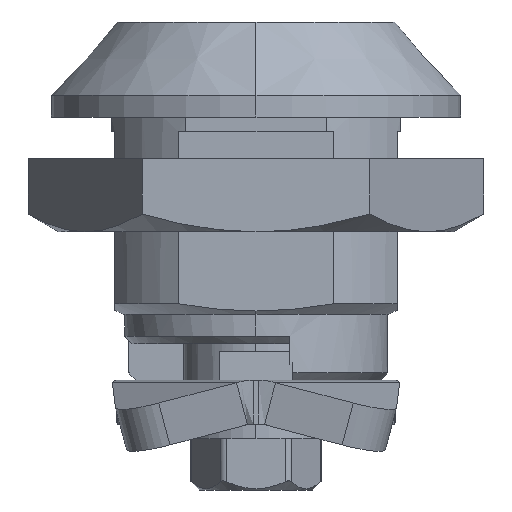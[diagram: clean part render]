
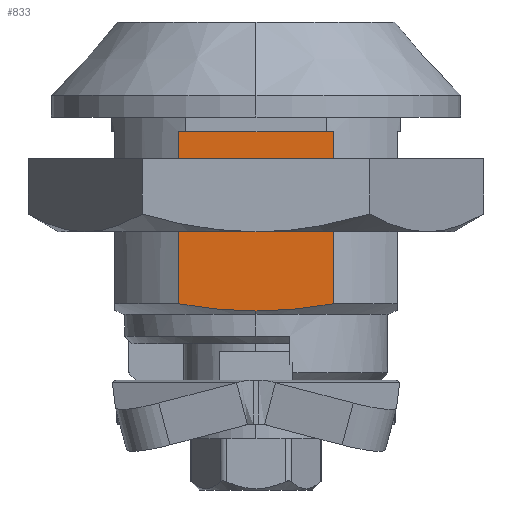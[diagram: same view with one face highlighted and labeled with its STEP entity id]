
A CAD part, left-side view. The second image highlights one B-rep face of the part: STEP entity #833.
In plain terms, the highlighted planar face has unit normal (-1, 0, 0).
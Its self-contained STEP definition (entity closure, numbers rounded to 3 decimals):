
#344 = EDGE_CURVE ( 'NONE', #525, #349, #3153, .T. ) ;
#349 = VERTEX_POINT ( 'NONE', #3144 ) ;
#405 = VERTEX_POINT ( 'NONE', #3381 ) ;
#491 = VERTEX_POINT ( 'NONE', #3625 ) ;
#525 = VERTEX_POINT ( 'NONE', #3733 ) ;
#610 = EDGE_CURVE ( 'NONE', #491, #405, #4011, .T. ) ;
#770 = ORIENTED_EDGE ( 'NONE', *, *, #787, .T. ) ;
#771 = ORIENTED_EDGE ( 'NONE', *, *, #610, .T. ) ;
#772 = ORIENTED_EDGE ( 'NONE', *, *, #773, .F. ) ;
#773 = EDGE_CURVE ( 'NONE', #349, #405, #4571, .T. ) ;
#775 = ORIENTED_EDGE ( 'NONE', *, *, #344, .F. ) ;
#787 = EDGE_CURVE ( 'NONE', #788, #491, #4620, .T. ) ;
#788 = VERTEX_POINT ( 'NONE', #4616 ) ;
#833 = ADVANCED_FACE ( 'NONE', ( #4768 ), #4753, .T. ) ;
#835 = EDGE_LOOP ( 'NONE', ( #837, #770, #771, #772, #775 ) ) ;
#837 = ORIENTED_EDGE ( 'NONE', *, *, #838, .F. ) ;
#838 = EDGE_CURVE ( 'NONE', #788, #525, #4803, .T. ) ;
#3144 = CARTESIAN_POINT ( 'NONE',  ( -9.65, 5.28, 5.228 ) ) ;
#3147 = CARTESIAN_POINT ( 'NONE',  ( -9.65, 5.28, 5.228 ) ) ;
#3148 = CARTESIAN_POINT ( 'NONE',  ( -9.65, 4.407, 5.075 ) ) ;
#3149 = CARTESIAN_POINT ( 'NONE',  ( -9.65, 3.53, 4.951 ) ) ;
#3150 = CARTESIAN_POINT ( 'NONE',  ( -9.65, 1.771, 4.782 ) ) ;
#3151 = CARTESIAN_POINT ( 'NONE',  ( -9.65, 0.888, 4.737 ) ) ;
#3152 = CARTESIAN_POINT ( 'NONE',  ( -9.65, 0., 4.737 ) ) ;
#3153 = B_SPLINE_CURVE_WITH_KNOTS ( 'NONE', 3,
 ( #3152, #3151, #3150, #3149, #3148, #3147 ),
 .UNSPECIFIED., .F., .F.,
 ( 4, 2, 4 ),
 ( 0., 0.003, 0.005 ),
 .UNSPECIFIED. ) ;
#3381 = CARTESIAN_POINT ( 'NONE',  ( -9.65, 5.28, 17. ) ) ;
#3625 = CARTESIAN_POINT ( 'NONE',  ( -9.65, -5.28, 17. ) ) ;
#3733 = CARTESIAN_POINT ( 'NONE',  ( -9.65, 0., 4.737 ) ) ;
#4008 = DIRECTION ( 'NONE',  ( 0., 1., 0. ) ) ;
#4009 = VECTOR ( 'NONE', #4008, 1000. ) ;
#4010 = CARTESIAN_POINT ( 'NONE',  ( -9.65, -5.28, 17. ) ) ;
#4011 = LINE ( 'NONE', #4010, #4009 ) ;
#4568 = DIRECTION ( 'NONE',  ( 0., 0., 1. ) ) ;
#4569 = VECTOR ( 'NONE', #4568, 1000. ) ;
#4570 = CARTESIAN_POINT ( 'NONE',  ( -9.65, 5.28, 18. ) ) ;
#4571 = LINE ( 'NONE', #4570, #4569 ) ;
#4616 = CARTESIAN_POINT ( 'NONE',  ( -9.65, -5.28, 5.228 ) ) ;
#4617 = DIRECTION ( 'NONE',  ( 0., 0., 1. ) ) ;
#4618 = VECTOR ( 'NONE', #4617, 1000. ) ;
#4619 = CARTESIAN_POINT ( 'NONE',  ( -9.65, -5.28, 18. ) ) ;
#4620 = LINE ( 'NONE', #4619, #4618 ) ;
#4749 = DIRECTION ( 'NONE',  ( 0., 0., 1. ) ) ;
#4750 = DIRECTION ( 'NONE',  ( -1., 0., 0. ) ) ;
#4751 = CARTESIAN_POINT ( 'NONE',  ( -9.65, -5.28, 18. ) ) ;
#4752 = AXIS2_PLACEMENT_3D ( 'NONE', #4751, #4750, #4749 ) ;
#4753 = PLANE ( 'NONE',  #4752 ) ;
#4768 = FACE_OUTER_BOUND ( 'NONE', #835, .T. ) ;
#4790 = CARTESIAN_POINT ( 'NONE',  ( -9.65, 0., 4.737 ) ) ;
#4791 = CARTESIAN_POINT ( 'NONE',  ( -9.65, -0.888, 4.737 ) ) ;
#4792 = CARTESIAN_POINT ( 'NONE',  ( -9.65, -1.771, 4.782 ) ) ;
#4793 = CARTESIAN_POINT ( 'NONE',  ( -9.65, -3.53, 4.951 ) ) ;
#4794 = CARTESIAN_POINT ( 'NONE',  ( -9.65, -4.407, 5.075 ) ) ;
#4795 = CARTESIAN_POINT ( 'NONE',  ( -9.65, -5.28, 5.228 ) ) ;
#4803 = B_SPLINE_CURVE_WITH_KNOTS ( 'NONE', 3,
 ( #4795, #4794, #4793, #4792, #4791, #4790 ),
 .UNSPECIFIED., .F., .F.,
 ( 4, 2, 4 ),
 ( -0.005, -0.003, 0. ),
 .UNSPECIFIED. ) ;
